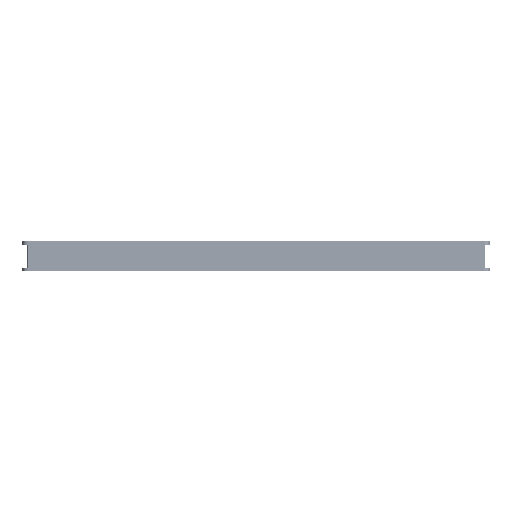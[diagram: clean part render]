
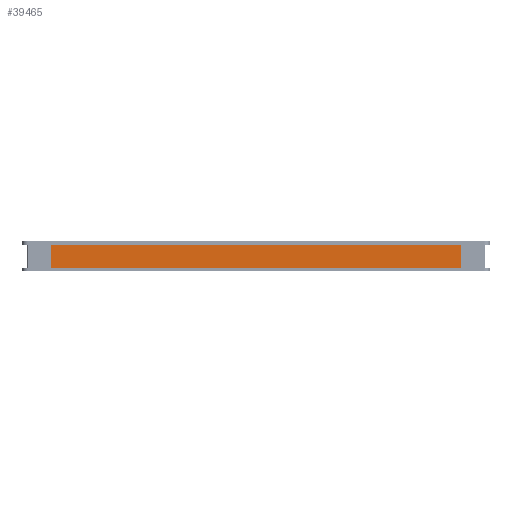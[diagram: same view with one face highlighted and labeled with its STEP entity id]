
A CAD part, left-side view. The second image highlights one B-rep face of the part: STEP entity #39465.
In plain terms, the highlighted planar face has unit normal (-1, 0, 0).
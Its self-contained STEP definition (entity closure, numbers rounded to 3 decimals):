
#784 = EDGE_CURVE ( 'NONE', #76541, #42884, #84982, .T. ) ;
#17347 = CARTESIAN_POINT ( 'NONE',  ( -725.983, -348.14, -131.045 ) ) ;
#19766 = AXIS2_PLACEMENT_3D ( 'NONE', #82253, #33172, #90518 ) ;
#21076 = VECTOR ( 'NONE', #104274, 1000. ) ;
#21093 = CARTESIAN_POINT ( 'NONE',  ( -725.983, -348.14, -92.045 ) ) ;
#24761 = VECTOR ( 'NONE', #29325, 1000. ) ;
#27351 = LINE ( 'NONE', #95214, #24761 ) ;
#29325 = DIRECTION ( 'NONE',  ( 0., 0., -1. ) ) ;
#29601 = CARTESIAN_POINT ( 'NONE',  ( -725.983, 417.86, -92.045 ) ) ;
#33172 = DIRECTION ( 'NONE',  ( 1., 0., 0. ) ) ;
#36363 = VERTEX_POINT ( 'NONE', #78396 ) ;
#38246 = LINE ( 'NONE', #21093, #43324 ) ;
#39465 = ADVANCED_FACE ( 'NONE', ( #103804 ), #49274, .F. ) ;
#42332 = ORIENTED_EDGE ( 'NONE', *, *, #69783, .T. ) ;
#42884 = VERTEX_POINT ( 'NONE', #17347 ) ;
#43324 = VECTOR ( 'NONE', #86660, 1000. ) ;
#44603 = ORIENTED_EDGE ( 'NONE', *, *, #62236, .T. ) ;
#49274 = PLANE ( 'NONE',  #19766 ) ;
#57628 = CARTESIAN_POINT ( 'NONE',  ( -725.983, -348.14, -131.045 ) ) ;
#62236 = EDGE_CURVE ( 'NONE', #94776, #76541, #27351, .T. ) ;
#62724 = ORIENTED_EDGE ( 'NONE', *, *, #784, .T. ) ;
#63174 = VECTOR ( 'NONE', #74094, 1000. ) ;
#65076 = EDGE_LOOP ( 'NONE', ( #44603, #62724, #98016, #42332 ) ) ;
#69783 = EDGE_CURVE ( 'NONE', #36363, #94776, #38246, .T. ) ;
#71944 = EDGE_CURVE ( 'NONE', #42884, #36363, #87713, .T. ) ;
#74094 = DIRECTION ( 'NONE',  ( 0., -1., 0. ) ) ;
#76541 = VERTEX_POINT ( 'NONE', #88384 ) ;
#78396 = CARTESIAN_POINT ( 'NONE',  ( -725.983, -348.14, -92.045 ) ) ;
#82253 = CARTESIAN_POINT ( 'NONE',  ( -725.983, 34.86, -111.545 ) ) ;
#84982 = LINE ( 'NONE', #57628, #63174 ) ;
#86660 = DIRECTION ( 'NONE',  ( 0., 1., 0. ) ) ;
#87713 = LINE ( 'NONE', #93270, #21076 ) ;
#88384 = CARTESIAN_POINT ( 'NONE',  ( -725.983, 417.86, -131.045 ) ) ;
#90518 = DIRECTION ( 'NONE',  ( 0., -1., 0. ) ) ;
#93270 = CARTESIAN_POINT ( 'NONE',  ( -725.983, -348.14, -92.045 ) ) ;
#94776 = VERTEX_POINT ( 'NONE', #29601 ) ;
#95214 = CARTESIAN_POINT ( 'NONE',  ( -725.983, 417.86, -92.045 ) ) ;
#98016 = ORIENTED_EDGE ( 'NONE', *, *, #71944, .T. ) ;
#103804 = FACE_OUTER_BOUND ( 'NONE', #65076, .T. ) ;
#104274 = DIRECTION ( 'NONE',  ( 0., 0., 1. ) ) ;
